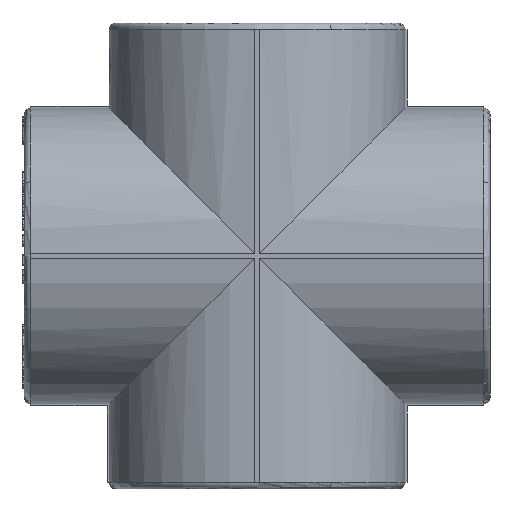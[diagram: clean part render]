
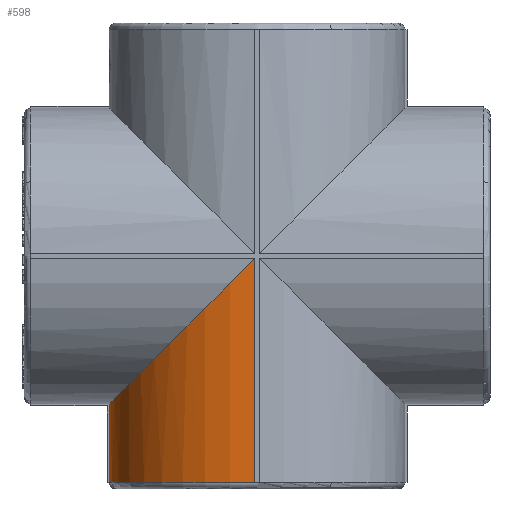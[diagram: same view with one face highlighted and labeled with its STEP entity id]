
A CAD part, left-side view. The second image highlights one B-rep face of the part: STEP entity #598.
In plain terms, the highlighted cylindrical face has radius 33.5 mm (diameter 67 mm), a partial arc.
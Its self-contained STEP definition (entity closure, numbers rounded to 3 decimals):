
#598=ADVANCED_FACE('',(#4698),#4700,.T.);
#4698=FACE_BOUND('',#4699,.T.);
#4699=EDGE_LOOP('',(#12191,#12192,#12193,#12194));
#4700=CYLINDRICAL_SURFACE('',#4701,33.5);
#4701=AXIS2_PLACEMENT_3D('',#4702,#4703,#4704);
#4702=CARTESIAN_POINT('',(0.,0.,-52.8));
#4703=DIRECTION('',(0.,0.,1.));
#4704=DIRECTION('',(-1.,0.,0.));
#12191=ORIENTED_EDGE('',*,*,#17508,.F.);
#12192=ORIENTED_EDGE('',*,*,#17509,.T.);
#12193=ORIENTED_EDGE('',*,*,#17510,.F.);
#12194=ORIENTED_EDGE('',*,*,#17470,.T.);
#17470=EDGE_CURVE('',#21456,#21454,#21457,.F.);
#17508=EDGE_CURVE('',#21518,#21454,#21520,.T.);
#17509=EDGE_CURVE('',#21518,#21521,#21522,.T.);
#17510=EDGE_CURVE('',#21456,#21521,#21523,.F.);
#21454=VERTEX_POINT('',#29438);
#21456=VERTEX_POINT('',#29442);
#21457=(BOUNDED_CURVE()B_SPLINE_CURVE(3,
(#29443,#29444,#29445,#29446),
.UNSPECIFIED.,.F.,.F.)B_SPLINE_CURVE_WITH_KNOTS((4,4),
(0.,1.),
.UNSPECIFIED.)CURVE()GEOMETRIC_REPRESENTATION_ITEM()RATIONAL_B_SPLINE_CURVE((1.,
0.812,0.812,1.))REPRESENTATION_ITEM(''));
#21518=VERTEX_POINT('',#29656);
#21520=LINE('',#29660,#29661);
#21521=VERTEX_POINT('',#29663);
#21522=CIRCLE('',#29664,33.5);
#21523=LINE('',#29668,#29669);
#29438=CARTESIAN_POINT('',(-0.5,33.496,-33.496));
#29442=CARTESIAN_POINT('',(-33.496,0.5,-0.5));
#29443=CARTESIAN_POINT('',(-0.5,33.496,-33.496));
#29444=CARTESIAN_POINT('',(-19.66,33.21,-33.21));
#29445=CARTESIAN_POINT('',(-33.21,19.66,-19.66));
#29446=CARTESIAN_POINT('',(-33.496,0.5,-0.5));
#29656=CARTESIAN_POINT('',(-0.5,33.496,-51.3));
#29660=CARTESIAN_POINT('',(-0.5,33.496,-51.3));
#29661=VECTOR('',#29662,1.);
#29662=DIRECTION('',(0.,0.,1.));
#29663=CARTESIAN_POINT('',(-33.496,0.5,-51.3));
#29664=AXIS2_PLACEMENT_3D('',#29665,#29666,#29667);
#29665=CARTESIAN_POINT('',(0.,0.,-51.3));
#29666=DIRECTION('',(0.,0.,1.));
#29667=DIRECTION('',(-0.015,1.,0.));
#29668=CARTESIAN_POINT('',(-33.496,0.5,-51.3));
#29669=VECTOR('',#29670,1.);
#29670=DIRECTION('',(0.,0.,1.));
